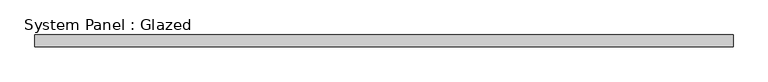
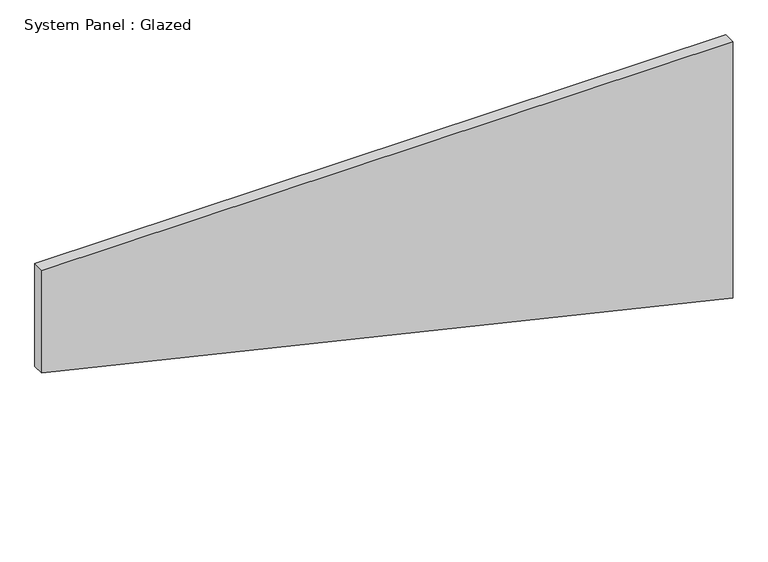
"""IFC4 building model written with IfcOpenShell, lengths in millimetres: plate geometry, System Panel : Glazed."""

from ifc_helpers import new_model, si_unit, frame, origin, place, context, project, spatial, polyline, outline, extrude, source, transform, mapped, element, save


def system_panel_glazed_c46ea9cc(model_context):
    return source(origin(), model_context, "Body", "SweptSolid", [
        extrude(outline(polyline([(345.7559661, -735.8695652), (0.0, 735.8695652), (577.2909962, 735.8695652), (577.2909962, -735.8695652), (345.7559661, -735.8695652)])), frame((0.0, 24.5, 0.0), z_axis=(0.0, 1.0, 0.0), x_axis=(0.0, 0.0, 1.0)), (0.0, 0.0, 1.0), 25.0),
    ])


if __name__ == "__main__":
    model = new_model("IFC4")
    model_context = context("Model", 3, world=origin())
    ifc_project = project(units=[si_unit("LENGTHUNIT", "METRE", prefix="MILLI")], contexts=[model_context])
    site = spatial("IfcSite", under=ifc_project)
    building = spatial("IfcBuilding", under=site)
    placement = place(None, origin())
    system_panel_glazed_shape = system_panel_glazed_c46ea9cc(model_context)
    element("IfcPlate", 1, ObjectType="System Panel : Glazed", at=placement, inside=building, context=model_context, shape_type="MappedRepresentation", body=[
        mapped(system_panel_glazed_shape, transform((0.0, 0.0, 0.0), x_axis=(1.0, 0.0, 0.0), y_axis=(0.0, 1.0, 0.0), z_axis=(0.0, 0.0, 1.0))),
    ])
    save(model, "model.ifc")
